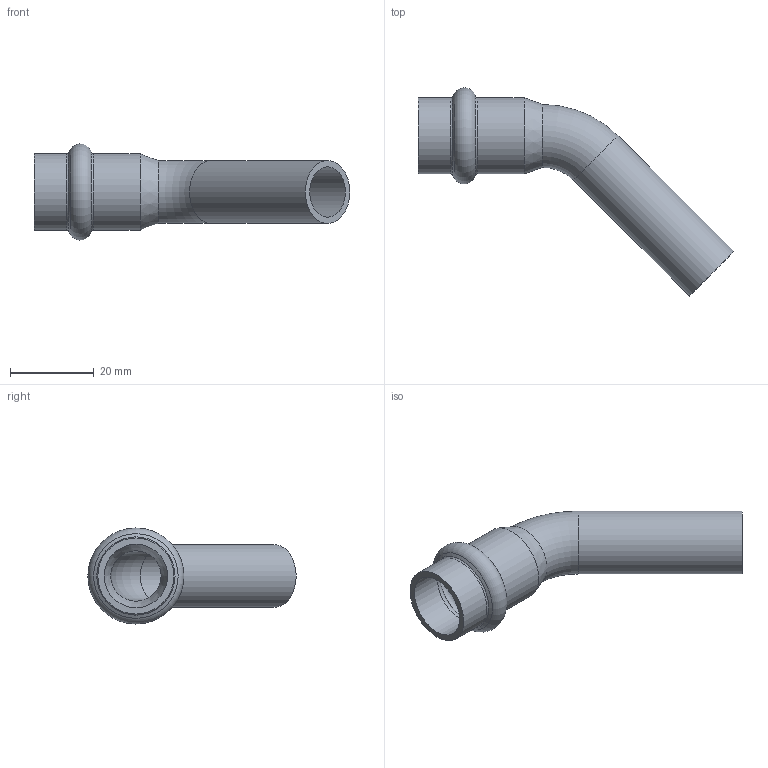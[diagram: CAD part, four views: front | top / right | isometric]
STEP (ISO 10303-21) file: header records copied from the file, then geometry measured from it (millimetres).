
FILE_DESCRIPTION((''),'2;1');
FILE_NAME('G:\Nirosan-Schmiedefeld\Technics\CAD\Bauteile VA\015\6904015(2).stp','2011-09-14T15:38:15',('herberg'),(''),'Autodesk Inventor 2009','Autodesk Inventor 2009','');
FILE_SCHEMA(('AUTOMOTIVE_DESIGN { 1 0 10303 214 1 1 1 1 }'));
Length unit declared in the file: millimetre
Products named in the file (1): 6904015(2)
Bounding box: 75.23 x 49.63 x 22.89 mm (x, y, z)
Volume: 5957.7 mm3; surface area: 8085.5 mm2
Topology: 1 solids, 1 shells, 20 faces, 43 edges, 25 vertices
Faces by surface type: cylinder 6, cone 4, torus 4, bspline 4, plane 2
Full cylindrical faces by diameter (mm): 12 x1, 15 x1, 15.15 x2, 18.15 x2
Entity records: 626 total; most frequent: CARTESIAN_POINT 272, DIRECTION 72, ORIENTED_EDGE 40, EDGE_LOOP 40, AXIS2_PLACEMENT_3D 36, VERTEX_POINT 20, EDGE_CURVE 20, FACE_OUTER_BOUND 20
